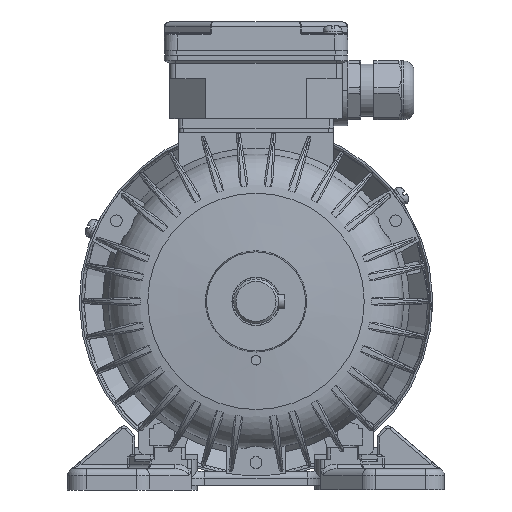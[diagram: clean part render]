
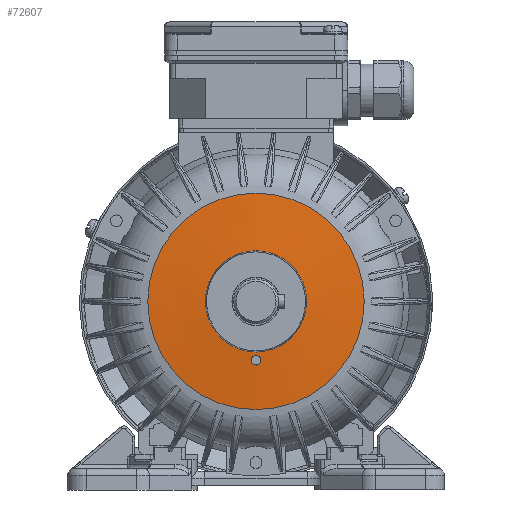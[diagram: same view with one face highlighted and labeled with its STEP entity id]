
A CAD part, left-side view. The second image highlights one B-rep face of the part: STEP entity #72607.
In plain terms, the highlighted conical face has half-angle 85.5 degrees and reference radius 21.472 mm.
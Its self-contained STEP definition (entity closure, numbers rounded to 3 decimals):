
#512=CONICAL_SURFACE('',#76914,21.472,1.492);
#10728=B_SPLINE_CURVE_WITH_KNOTS('',3,(#113624,#113625,#113626,#113627,
#113628,#113629,#113630,#113631,#113632,#113633,#113634),.UNSPECIFIED.,
 .T.,.F.,(1,1,1,1,1,1,1,1,1,1,1,1,1,1,1),(-0.005,-0.003,
-0.002,0.,0.002,0.003,
0.005,0.006,0.008,0.009,
0.011,0.013,0.014,0.016,
0.017),.UNSPECIFIED.);
#21148=ORIENTED_EDGE('',*,*,#32949,.F.);
#21149=ORIENTED_EDGE('',*,*,#32678,.T.);
#21150=ORIENTED_EDGE('',*,*,#32950,.T.);
#32678=EDGE_CURVE('',#39423,#39423,#43222,.T.);
#32949=EDGE_CURVE('',#39539,#39539,#43297,.T.);
#32950=EDGE_CURVE('',#39540,#39540,#10728,.T.);
#39423=VERTEX_POINT('',#110124);
#39539=VERTEX_POINT('',#113623);
#39540=VERTEX_POINT('',#113635);
#43222=CIRCLE('',#76685,45.912);
#43297=CIRCLE('',#76915,21.472);
#46084=EDGE_LOOP('',(#21148));
#46085=EDGE_LOOP('',(#21149));
#46086=EDGE_LOOP('',(#21150));
#49538=FACE_BOUND('',#46084,.T.);
#49539=FACE_BOUND('',#46085,.T.);
#49540=FACE_BOUND('',#46086,.T.);
#72607=ADVANCED_FACE('',(#49538,#49539,#49540),#512,.T.);
#76685=AXIS2_PLACEMENT_3D('',#110123,#86815,#86816);
#76914=AXIS2_PLACEMENT_3D('',#113621,#87366,#87367);
#76915=AXIS2_PLACEMENT_3D('',#113622,#87368,#87369);
#86815=DIRECTION('',(-1.,0.,0.));
#86816=DIRECTION('',(0.,0.,-1.));
#87366=DIRECTION('',(1.,0.,0.));
#87367=DIRECTION('',(0.,0.,1.));
#87368=DIRECTION('',(-1.,0.,0.));
#87369=DIRECTION('',(0.,0.,-1.));
#110123=CARTESIAN_POINT('',(-33.077,0.,0.));
#110124=CARTESIAN_POINT('',(-33.077,0.,-45.912));
#113621=CARTESIAN_POINT('',(-35.,0.,0.));
#113622=CARTESIAN_POINT('',(-35.,0.,0.));
#113623=CARTESIAN_POINT('',(-35.,0.,-21.472));
#113624=CARTESIAN_POINT('',(-34.549,-0.01,-27.218));
#113625=CARTESIAN_POINT('',(-34.596,1.564,-26.571));
#113626=CARTESIAN_POINT('',(-34.714,2.215,-25.007));
#113627=CARTESIAN_POINT('',(-34.841,1.576,-23.442));
#113628=CARTESIAN_POINT('',(-34.899,0.01,-22.782));
#113629=CARTESIAN_POINT('',(-34.843,-1.563,-23.429));
#113630=CARTESIAN_POINT('',(-34.715,-2.215,-24.989));
#113631=CARTESIAN_POINT('',(-34.597,-1.577,-26.558));
#113632=CARTESIAN_POINT('',(-34.549,-0.01,-27.218));
#113633=CARTESIAN_POINT('',(-34.596,1.564,-26.571));
#113634=CARTESIAN_POINT('',(-34.714,2.215,-25.007));
#113635=CARTESIAN_POINT('',(-34.608,1.41,-26.418));
